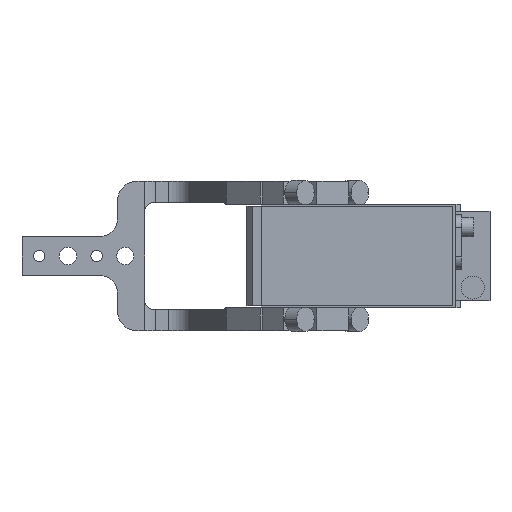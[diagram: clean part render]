
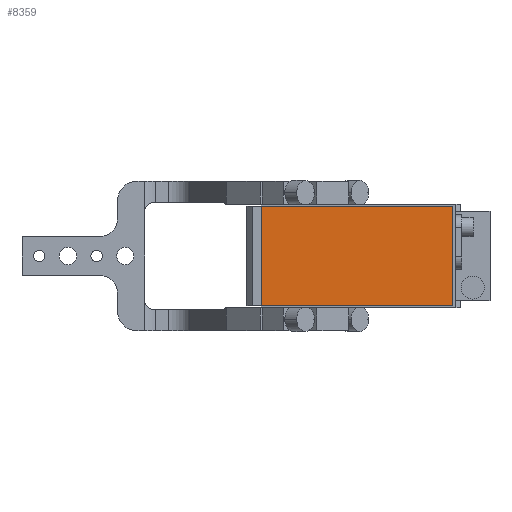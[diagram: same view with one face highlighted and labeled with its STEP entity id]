
A CAD part, front view. The second image highlights one B-rep face of the part: STEP entity #8359.
In plain terms, the highlighted planar face has unit normal (0, -1, 0).
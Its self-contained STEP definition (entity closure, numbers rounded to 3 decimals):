
#540 = VECTOR ( 'NONE', #6449, 1000. ) ;
#666 = CARTESIAN_POINT ( 'NONE',  ( 81., -286.5, 26. ) ) ;
#1276 = DIRECTION ( 'NONE',  ( 0., -1., 0. ) ) ;
#1783 = CARTESIAN_POINT ( 'NONE',  ( -19., -286.5, 26. ) ) ;
#2130 = CARTESIAN_POINT ( 'NONE',  ( -19., -286.5, 26. ) ) ;
#2284 = FACE_OUTER_BOUND ( 'NONE', #12895, .T. ) ;
#2574 = ORIENTED_EDGE ( 'NONE', *, *, #3975, .T. ) ;
#3618 = VERTEX_POINT ( 'NONE', #666 ) ;
#3767 = DIRECTION ( 'NONE',  ( 0., 0., 1. ) ) ;
#3975 = EDGE_CURVE ( 'NONE', #3618, #9006, #6376, .T. ) ;
#4413 = EDGE_CURVE ( 'NONE', #8135, #9022, #9601, .T. ) ;
#4639 = VECTOR ( 'NONE', #10284, 1000. ) ;
#5113 = CARTESIAN_POINT ( 'NONE',  ( 81., -286.5, -26. ) ) ;
#5427 = CARTESIAN_POINT ( 'NONE',  ( -19., -286.5, -26. ) ) ;
#6376 = LINE ( 'NONE', #2130, #540 ) ;
#6449 = DIRECTION ( 'NONE',  ( -1., 0., 0. ) ) ;
#7684 = LINE ( 'NONE', #13043, #10559 ) ;
#8135 = VERTEX_POINT ( 'NONE', #5427 ) ;
#8359 = ADVANCED_FACE ( 'NONE', ( #2284 ), #12173, .T. ) ;
#8367 = EDGE_CURVE ( 'NONE', #9022, #3618, #7684, .T. ) ;
#8813 = ORIENTED_EDGE ( 'NONE', *, *, #13615, .T. ) ;
#9006 = VERTEX_POINT ( 'NONE', #11661 ) ;
#9022 = VERTEX_POINT ( 'NONE', #5113 ) ;
#9601 = LINE ( 'NONE', #11893, #10477 ) ;
#9948 = DIRECTION ( 'NONE',  ( 0., 0., -1. ) ) ;
#10284 = DIRECTION ( 'NONE',  ( 0., 0., -1. ) ) ;
#10477 = VECTOR ( 'NONE', #12958, 1000. ) ;
#10559 = VECTOR ( 'NONE', #3767, 1000. ) ;
#11005 = AXIS2_PLACEMENT_3D ( 'NONE', #13330, #1276, #9948 ) ;
#11271 = LINE ( 'NONE', #1783, #4639 ) ;
#11661 = CARTESIAN_POINT ( 'NONE',  ( -19., -286.5, 26. ) ) ;
#11893 = CARTESIAN_POINT ( 'NONE',  ( -19., -286.5, -26. ) ) ;
#12173 = PLANE ( 'NONE',  #11005 ) ;
#12248 = ORIENTED_EDGE ( 'NONE', *, *, #8367, .T. ) ;
#12827 = ORIENTED_EDGE ( 'NONE', *, *, #4413, .T. ) ;
#12895 = EDGE_LOOP ( 'NONE', ( #8813, #12827, #12248, #2574 ) ) ;
#12958 = DIRECTION ( 'NONE',  ( 1., 0., 0. ) ) ;
#13043 = CARTESIAN_POINT ( 'NONE',  ( 81., -286.5, 26. ) ) ;
#13330 = CARTESIAN_POINT ( 'NONE',  ( 0., -286.5, 0. ) ) ;
#13615 = EDGE_CURVE ( 'NONE', #9006, #8135, #11271, .T. ) ;
